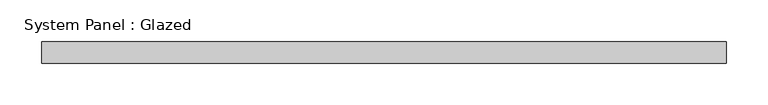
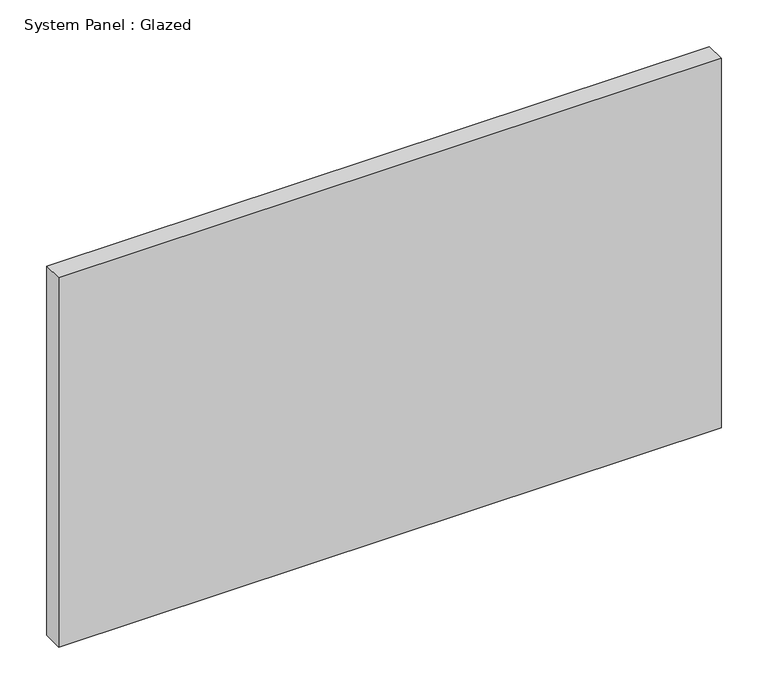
"""IFC4 building model written with IfcOpenShell, lengths in millimetres: plate geometry, System Panel : Glazed."""

from ifc_helpers import new_model, si_unit, origin, origin_with_axes, place, context, project, spatial, polyline, outline, extrude, source, transform, mapped, element, save


def system_panel_glazed_9254fb36(model_context):
    return source(origin(), model_context, "Body", "SweptSolid", [
        extrude(outline(polyline([(409.575, -44.45), (-409.575, -44.45), (-409.575, -19.05), (409.575, -19.05), (409.575, -44.45)])), origin_with_axes(), (0.0, 0.0, 1.0), 482.6),
    ])


if __name__ == "__main__":
    model = new_model("IFC4")
    model_context = context("Model", 3, world=origin())
    ifc_project = project(units=[si_unit("LENGTHUNIT", "METRE", prefix="MILLI")], contexts=[model_context])
    site = spatial("IfcSite", under=ifc_project)
    building = spatial("IfcBuilding", under=site)
    placement = place(None, origin())
    system_panel_glazed_shape = system_panel_glazed_9254fb36(model_context)
    element("IfcPlate", 1, ObjectType="System Panel : Glazed", at=placement, inside=building, context=model_context, shape_type="MappedRepresentation", body=[
        mapped(system_panel_glazed_shape, transform((0.0, 0.0, 0.0), x_axis=(1.0, 0.0, 0.0), y_axis=(0.0, 1.0, 0.0), z_axis=(0.0, 0.0, 1.0))),
    ])
    save(model, "model.ifc")
